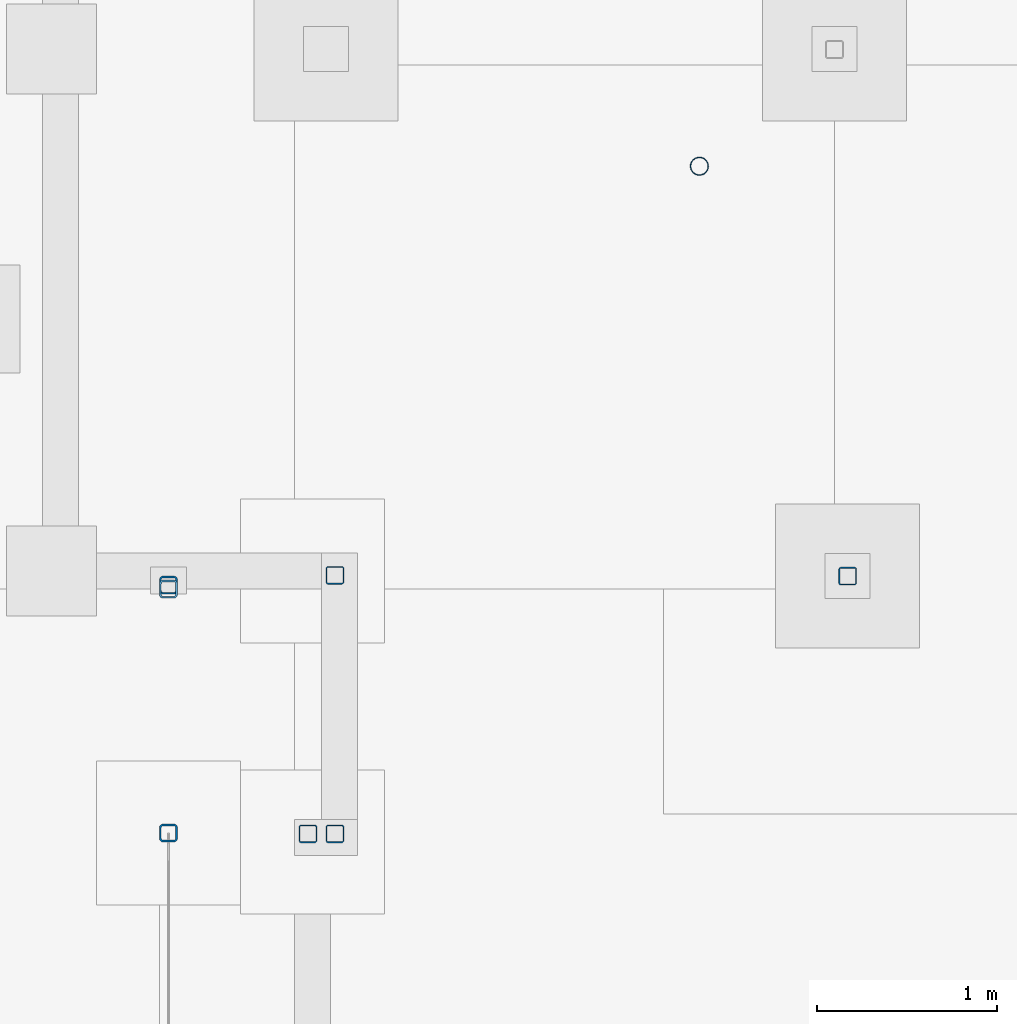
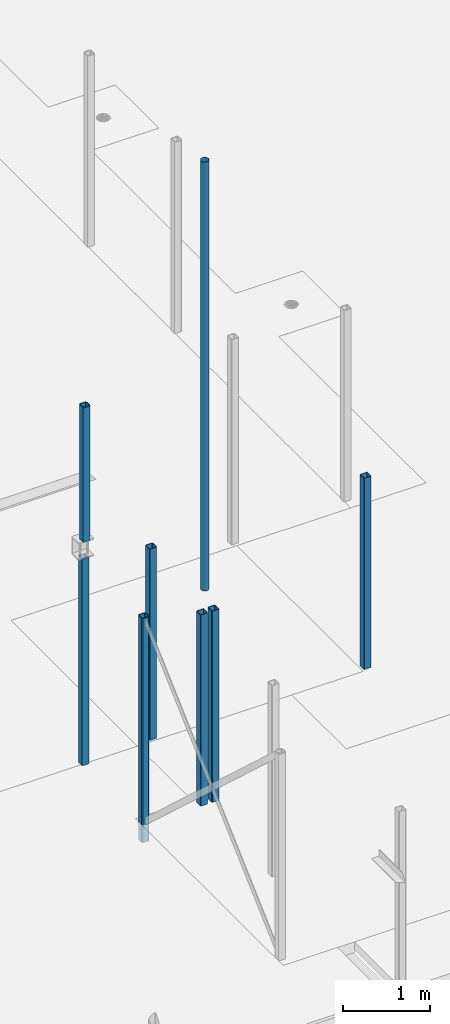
# One storey, part 2 of 18: 8 columns.
"""IFC2X3 building model written with IfcOpenShell, lengths in millimetres."""

from ifc_helpers import new_model, entity, si_unit, converted_unit, derived_unit, direction, frame, frame_2d, origin, place, context, subcontext, project, spatial, polyline, circle_curve, parameter, trimmed, segment, composite_curve, hollow_circle, outline, extrude, source, transform, mapped, material, type_object, type_shapes, element, save


model = new_model("IFC2X3")

# Units and contexts
model_context = context("Model", 3, precision=0.01, world=origin(), true_north=direction((6.12303176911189e-17, 1.0)))
body_context = subcontext(model_context, "Body", "Model", "MODEL_VIEW")
ifc_project = project(units=[si_unit("LENGTHUNIT", "METRE", prefix="MILLI"), si_unit("AREAUNIT", "SQUARE_METRE"), si_unit("VOLUMEUNIT", "CUBIC_METRE"), converted_unit("PLANEANGLEUNIT", "DEGREE", entity("IfcRatioMeasure", 0.0174532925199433), si_unit("PLANEANGLEUNIT", "RADIAN"), dimensions=[0, 0, 0, 0, 0, 0, 0]), si_unit("MASSUNIT", "GRAM", prefix="KILO"), derived_unit("MASSDENSITYUNIT", [(si_unit("MASSUNIT", "GRAM", prefix="KILO"), 1), (si_unit("LENGTHUNIT", "METRE"), -3)]), si_unit("TIMEUNIT", "SECOND"), si_unit("FREQUENCYUNIT", "HERTZ"), si_unit("THERMODYNAMICTEMPERATUREUNIT", "DEGREE_CELSIUS"), derived_unit("THERMALTRANSMITTANCEUNIT", [(si_unit("MASSUNIT", "GRAM", prefix="KILO"), 1), (si_unit("THERMODYNAMICTEMPERATUREUNIT", "KELVIN"), -1), (si_unit("TIMEUNIT", "SECOND"), -3)]), derived_unit("VOLUMETRICFLOWRATEUNIT", [(si_unit("LENGTHUNIT", "METRE"), 3), (si_unit("TIMEUNIT", "SECOND"), -1)]), si_unit("ELECTRICCURRENTUNIT", "AMPERE"), si_unit("ELECTRICVOLTAGEUNIT", "VOLT"), si_unit("POWERUNIT", "WATT"), si_unit("FORCEUNIT", "NEWTON", prefix="KILO"), si_unit("ILLUMINANCEUNIT", "LUX"), si_unit("LUMINOUSFLUXUNIT", "LUMEN"), si_unit("LUMINOUSINTENSITYUNIT", "CANDELA"), derived_unit("USERDEFINED", [(si_unit("MASSUNIT", "GRAM", prefix="KILO"), -1), (si_unit("LENGTHUNIT", "METRE"), -2), (si_unit("TIMEUNIT", "SECOND"), 3), (si_unit("LUMINOUSFLUXUNIT", "LUMEN"), 1)]), derived_unit("LINEARVELOCITYUNIT", [(si_unit("LENGTHUNIT", "METRE"), 1), (si_unit("TIMEUNIT", "SECOND"), -1)]), si_unit("PRESSUREUNIT", "PASCAL"), derived_unit("USERDEFINED", [(si_unit("LENGTHUNIT", "METRE"), -2), (si_unit("MASSUNIT", "GRAM", prefix="KILO"), 1), (si_unit("TIMEUNIT", "SECOND"), -2)])], contexts=[model_context])

# Site, building, storey
site_placement = place(None, frame((0.0, 0.0, 101000.0)))
site = spatial("IfcSite", under=ifc_project, at=site_placement, Name="Default", CompositionType="ELEMENT")
building_placement = place(site_placement, origin())
building = spatial("IfcBuilding", under=site, at=building_placement, CompositionType="ELEMENT")
storey_placement = place(building_placement, origin())
storey = spatial("IfcBuildingStorey", under=building, at=storey_placement, Name="01", CompositionType="ELEMENT", Elevation=8.9295595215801e-10)

# Columns
ifc_material_1 = material(Name="S355")
column_type_1 = type_object("IfcColumnType", Name="HUP 100x100x6.3", PredefinedType="COLUMN", material=ifc_material_1)
shared_shape_1 = source(origin(), body_context, "Body", "SweptSolid", [
    extrude(outline(composite_curve([segment(polyline([(-37.4000000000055, -50.0), (37.4000000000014, -50.0)]), True, "CONTINUOUS"), segment(trimmed(circle_curve(frame_2d((37.4000000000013, -37.3999999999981), x_axis=(-1.0, 0.0)), 12.6000000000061), [parameter(90.0000000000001)], [parameter(180.0)], True, "PARAMETER"), True, "CONTINUOUS"), segment(polyline([(50.0, -37.3999999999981), (50.0, 37.4000000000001)]), True, "CONTINUOUS"), segment(trimmed(circle_curve(frame_2d((37.4000000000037, 37.4000000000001), x_axis=(-1.0, 0.0)), 12.6000000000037), [parameter(180.0)], [parameter(270.0)], True, "PARAMETER"), True, "CONTINUOUS"), segment(polyline([(37.4000000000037, 50.0), (-37.4000000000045, 50.0)]), True, "CONTINUOUS"), segment(trimmed(circle_curve(frame_2d((-37.4000000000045, 37.4000000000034), x_axis=(-1.0, 0.0)), 12.6000000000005), [parameter(270.0)], [parameter(360.0)], True, "PARAMETER"), True, "CONTINUOUS"), segment(polyline([(-50.0, 37.4000000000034), (-50.0, -37.4000000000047)]), True, "CONTINUOUS"), segment(trimmed(circle_curve(frame_2d((-37.4000000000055, -37.4000000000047), x_axis=(-1.0, 0.0)), 12.5999999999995), [parameter(360.0)], [parameter(89.9999999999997)], True, "PARAMETER"), True, "CONTINUOUS")], self_intersect=False), holes=[composite_curve([segment(trimmed(circle_curve(frame_2d((-37.4000000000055, -37.4000000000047), x_axis=(-1.0, 0.0)), 6.2999999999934), [parameter(0.0)], [parameter(90.0)], True, "PARAMETER"), False, "CONTINUOUS"), segment(polyline([(-43.6999999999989, -37.4000000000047), (-43.6999999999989, 37.4000000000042)]), True, "CONTINUOUS"), segment(trimmed(circle_curve(frame_2d((-37.4000000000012, 37.4000000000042), x_axis=(-1.0, 0.0)), 6.29999999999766), [parameter(270.0)], [parameter(360.0)], True, "PARAMETER"), False, "CONTINUOUS"), segment(polyline([(-37.4000000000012, 43.7000000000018), (37.3999999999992, 43.7000000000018)]), True, "CONTINUOUS"), segment(trimmed(circle_curve(frame_2d((37.3999999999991, 37.3999999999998), x_axis=(-1.0, 0.0)), 6.30000000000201), [parameter(180.0)], [parameter(270.0)], True, "PARAMETER"), False, "CONTINUOUS"), segment(polyline([(43.7000000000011, 37.3999999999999), (43.7000000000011, -37.3999999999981)]), True, "CONTINUOUS"), segment(trimmed(circle_curve(frame_2d((37.4000000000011, -37.3999999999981), x_axis=(-1.0, 0.0)), 6.30000000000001), [parameter(90.0000000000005)], [parameter(180.0)], True, "PARAMETER"), False, "CONTINUOUS"), segment(polyline([(37.4000000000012, -43.6999999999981), (-37.4000000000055, -43.6999999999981)]), True, "CONTINUOUS")], self_intersect=False)]), frame((0.0, 0.0, 0.0), z_axis=(0.0, 0.0, 1.0), x_axis=(-1.0, 0.0, 0.0)), (0.0, 0.0, 1.0), 2684.99999999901),
])
type_shapes(column_type_1, [shared_shape_1])
for number, where, name in (
    (1, (11261.2644969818, 28058.4336358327, 0.0), "Søyle HUP:HUP 100x100x6.3"),
    (2, (11411.2644969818, 28058.4336358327, 0.0), "Søyle HUP:HUP 100x100x6.3"),
    (3, (11411.2644969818, 29494.9249129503, 0.0), "Søyle HUP:HUP 100x100x6.3"),
    (4, (14260.1002454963, 29490.299422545, 0.0), "Søyle HUP:HUP 100x100x6.3"),
):
    element("IfcColumn", number, at=place(storey_placement, frame(where)), inside=storey, type_object=column_type_1, material=ifc_material_1, Name=name, ObjectType="HUP 100x100x6.3", context=body_context, shape_type="MappedRepresentation", body=[
        mapped(shared_shape_1, transform((0.0, 0.0, 0.0), scale=1.0)),
    ])
column_type_2 = type_object("IfcColumnType", Name="HUP 100x100x10", PredefinedType="COLUMN", material=ifc_material_1)
shared_shape_2 = source(origin(), body_context, "Body", "SweptSolid", [
    extrude(outline(composite_curve([segment(polyline([(-30.0, -50.0), (30.0, -50.0)]), True, "CONTINUOUS"), segment(trimmed(circle_curve(frame_2d((30.0, -30.0), x_axis=(-1.0, 0.0)), 20.0000000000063), [parameter(90.0000000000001)], [parameter(180.0)], True, "PARAMETER"), True, "CONTINUOUS"), segment(polyline([(50.0, -30.0), (50.0, 30.0)]), True, "CONTINUOUS"), segment(trimmed(circle_curve(frame_2d((30.0, 30.0), x_axis=(-1.0, 0.0)), 20.0000000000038), [parameter(180.0)], [parameter(270.0)], True, "PARAMETER"), True, "CONTINUOUS"), segment(polyline([(30.0, 50.0), (-30.0, 50.0)]), True, "CONTINUOUS"), segment(trimmed(circle_curve(frame_2d((-30.0, 30.0), x_axis=(-1.0, 0.0)), 20.0000000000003), [parameter(270.0)], [parameter(360.0)], True, "PARAMETER"), True, "CONTINUOUS"), segment(polyline([(-50.0, 30.0), (-50.0, -30.0)]), True, "CONTINUOUS"), segment(trimmed(circle_curve(frame_2d((-30.0, -30.0), x_axis=(-1.0, 0.0)), 19.9999999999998), [parameter(360.0)], [parameter(89.9999999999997)], True, "PARAMETER"), True, "CONTINUOUS")], self_intersect=False), holes=[composite_curve([segment(trimmed(circle_curve(frame_2d((-30.0, -30.0), x_axis=(-1.0, 0.0)), 9.99999999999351), [parameter(0.0)], [parameter(90.0)], True, "PARAMETER"), False, "CONTINUOUS"), segment(polyline([(-40.0, -30.0), (-40.0, 30.0)]), True, "CONTINUOUS"), segment(trimmed(circle_curve(frame_2d((-30.0, 30.0), x_axis=(-1.0, 0.0)), 9.99999999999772), [parameter(270.0)], [parameter(0.0)], True, "PARAMETER"), False, "CONTINUOUS"), segment(polyline([(-30.0, 40.0), (30.0, 40.0)]), True, "CONTINUOUS"), segment(trimmed(circle_curve(frame_2d((30.0, 30.0), x_axis=(-1.0, 0.0)), 10.000000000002), [parameter(180.0)], [parameter(270.0)], True, "PARAMETER"), False, "CONTINUOUS"), segment(polyline([(40.0, 30.0), (40.0, -30.0)]), True, "CONTINUOUS"), segment(trimmed(circle_curve(frame_2d((30.0, -30.0), x_axis=(-1.0, 0.0)), 10.0), [parameter(90.0000000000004)], [parameter(180.0)], True, "PARAMETER"), False, "CONTINUOUS"), segment(polyline([(30.0, -40.0), (-30.0, -40.0)]), True, "CONTINUOUS")], self_intersect=False)]), frame((10486.2644969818, 28062.9507529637, -250.0), z_axis=(0.0, 0.0, 1.0), x_axis=(-1.0, 0.0, 0.0)), (0.0, 0.0, 1.0), 3149.99999999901),
])
type_shapes(column_type_2, [shared_shape_2])
column_1_placement = place(storey_placement, origin())
element("IfcColumn", 5, at=column_1_placement, inside=storey, type_object=column_type_2, material=ifc_material_1, Name="Søyle HUP:HUP 100x100x10", ObjectType="HUP 100x100x10", context=body_context, shape_type="MappedRepresentation", body=[
    mapped(shared_shape_2, transform((0.0, 0.0, 0.0), scale=1.0)),
])
column_type_3 = type_object("IfcColumnType", Name="HUP 100x100x10", PredefinedType="COLUMN", material=ifc_material_1)
shared_shape_3 = source(origin(), body_context, "Body", "SweptSolid", [
    extrude(outline(composite_curve([segment(polyline([(-30.0, -50.0), (30.0, -50.0)]), True, "CONTINUOUS"), segment(trimmed(circle_curve(frame_2d((30.0, -30.0), x_axis=(-1.0, 0.0)), 20.0000000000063), [parameter(90.0000000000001)], [parameter(180.0)], True, "PARAMETER"), True, "CONTINUOUS"), segment(polyline([(50.0, -30.0), (50.0, 30.0)]), True, "CONTINUOUS"), segment(trimmed(circle_curve(frame_2d((30.0, 30.0), x_axis=(-1.0, 0.0)), 20.0000000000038), [parameter(180.0)], [parameter(270.0)], True, "PARAMETER"), True, "CONTINUOUS"), segment(polyline([(30.0, 50.0), (-30.0, 50.0)]), True, "CONTINUOUS"), segment(trimmed(circle_curve(frame_2d((-30.0, 30.0), x_axis=(-1.0, 0.0)), 20.0000000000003), [parameter(270.0)], [parameter(360.0)], True, "PARAMETER"), True, "CONTINUOUS"), segment(polyline([(-50.0, 30.0), (-50.0, -30.0)]), True, "CONTINUOUS"), segment(trimmed(circle_curve(frame_2d((-30.0, -30.0), x_axis=(-1.0, 0.0)), 19.9999999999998), [parameter(360.0)], [parameter(89.9999999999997)], True, "PARAMETER"), True, "CONTINUOUS")], self_intersect=False), holes=[composite_curve([segment(trimmed(circle_curve(frame_2d((-30.0, -30.0), x_axis=(-1.0, 0.0)), 9.99999999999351), [parameter(0.0)], [parameter(90.0)], True, "PARAMETER"), False, "CONTINUOUS"), segment(polyline([(-40.0, -30.0), (-40.0, 30.0)]), True, "CONTINUOUS"), segment(trimmed(circle_curve(frame_2d((-30.0, 30.0), x_axis=(-1.0, 0.0)), 9.99999999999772), [parameter(270.0)], [parameter(0.0)], True, "PARAMETER"), False, "CONTINUOUS"), segment(polyline([(-30.0, 40.0), (30.0, 40.0)]), True, "CONTINUOUS"), segment(trimmed(circle_curve(frame_2d((30.0, 30.0), x_axis=(-1.0, 0.0)), 10.000000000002), [parameter(180.0)], [parameter(270.0)], True, "PARAMETER"), False, "CONTINUOUS"), segment(polyline([(40.0, 30.0), (40.0, -30.0)]), True, "CONTINUOUS"), segment(trimmed(circle_curve(frame_2d((30.0, -30.0), x_axis=(-1.0, 0.0)), 10.0), [parameter(90.0000000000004)], [parameter(180.0)], True, "PARAMETER"), False, "CONTINUOUS"), segment(polyline([(30.0, -40.0), (-30.0, -40.0)]), True, "CONTINUOUS")], self_intersect=False)]), frame((10486.2644969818, 29440.2994225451, 0.0), z_axis=(0.0, 0.0, 1.0), x_axis=(-1.0, 0.0, 0.0)), (0.0, 0.0, 1.0), 2899.99999999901),
])
type_shapes(column_type_3, [shared_shape_3])
column_2_placement = place(storey_placement, origin())
element("IfcColumn", 6, at=column_2_placement, inside=storey, type_object=column_type_3, material=ifc_material_1, Name="Søyle HUP:HUP 100x100x10", ObjectType="HUP 100x100x10", context=body_context, shape_type="MappedRepresentation", body=[
    mapped(shared_shape_3, transform((0.0, 0.0, 0.0), scale=1.0)),
])
column_type_4 = type_object("IfcColumnType", Name="HUP 100x100x10", PredefinedType="COLUMN", material=ifc_material_1)
shared_shape_4 = source(origin(), body_context, "Body", "SweptSolid", [
    extrude(outline(composite_curve([segment(polyline([(-30.0, -50.0), (30.0, -50.0)]), True, "CONTINUOUS"), segment(trimmed(circle_curve(frame_2d((30.0, -30.0), x_axis=(-1.0, 0.0)), 20.0000000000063), [parameter(90.0000000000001)], [parameter(180.0)], True, "PARAMETER"), True, "CONTINUOUS"), segment(polyline([(50.0, -30.0), (50.0, 30.0)]), True, "CONTINUOUS"), segment(trimmed(circle_curve(frame_2d((30.0, 30.0), x_axis=(-1.0, 0.0)), 20.0000000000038), [parameter(180.0)], [parameter(270.0)], True, "PARAMETER"), True, "CONTINUOUS"), segment(polyline([(30.0, 50.0), (-30.0, 50.0)]), True, "CONTINUOUS"), segment(trimmed(circle_curve(frame_2d((-30.0, 30.0), x_axis=(-1.0, 0.0)), 20.0000000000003), [parameter(270.0)], [parameter(360.0)], True, "PARAMETER"), True, "CONTINUOUS"), segment(polyline([(-50.0, 30.0), (-50.0, -30.0)]), True, "CONTINUOUS"), segment(trimmed(circle_curve(frame_2d((-30.0, -30.0), x_axis=(-1.0, 0.0)), 19.9999999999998), [parameter(360.0)], [parameter(89.9999999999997)], True, "PARAMETER"), True, "CONTINUOUS")], self_intersect=False), holes=[composite_curve([segment(trimmed(circle_curve(frame_2d((-30.0, -30.0), x_axis=(-1.0, 0.0)), 9.99999999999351), [parameter(0.0)], [parameter(90.0)], True, "PARAMETER"), False, "CONTINUOUS"), segment(polyline([(-40.0, -30.0), (-40.0, 30.0)]), True, "CONTINUOUS"), segment(trimmed(circle_curve(frame_2d((-30.0, 30.0), x_axis=(-1.0, 0.0)), 9.99999999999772), [parameter(270.0)], [parameter(0.0)], True, "PARAMETER"), False, "CONTINUOUS"), segment(polyline([(-30.0, 40.0), (30.0, 40.0)]), True, "CONTINUOUS"), segment(trimmed(circle_curve(frame_2d((30.0, 30.0), x_axis=(-1.0, 0.0)), 10.000000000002), [parameter(180.0)], [parameter(270.0)], True, "PARAMETER"), False, "CONTINUOUS"), segment(polyline([(40.0, 30.0), (40.0, -30.0)]), True, "CONTINUOUS"), segment(trimmed(circle_curve(frame_2d((30.0, -30.0), x_axis=(-1.0, 0.0)), 10.0), [parameter(90.0000000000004)], [parameter(180.0)], True, "PARAMETER"), False, "CONTINUOUS"), segment(polyline([(30.0, -40.0), (-30.0, -40.0)]), True, "CONTINUOUS")], self_intersect=False)]), frame((10486.2644969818, 29417.9507529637, 3150.0), z_axis=(0.0, 0.0, 1.0), x_axis=(-1.0, 0.0, 0.0)), (0.0, 0.0, 1.0), 1890.0),
])
type_shapes(column_type_4, [shared_shape_4])
column_3_placement = place(storey_placement, origin())
element("IfcColumn", 7, at=column_3_placement, inside=storey, type_object=column_type_4, material=ifc_material_1, Name="Søyle HUP:HUP 100x100x10", ObjectType="HUP 100x100x10", context=body_context, shape_type="MappedRepresentation", body=[
    mapped(shared_shape_4, transform((0.0, 0.0, 0.0), scale=1.0)),
])
ifc_material_2 = material(Name="Barco_Cromado")
column_type_5 = type_object("IfcColumnType", Name="BRANNMANNSTANG", PredefinedType="COLUMN", material=ifc_material_2)
shared_shape_5 = source(origin(), body_context, "Body", "SweptSolid", [
    extrude(hollow_circle(Radius=50.7999999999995, WallThickness=3.19999999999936, at=frame_2d((-1.28881280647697e-15, -8.20544153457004e-14), x_axis=(1.0, 0.0))), frame((-0.200000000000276, -0.199999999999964, 0.0)), (0.0, 0.0, 1.0), 6024.9999999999),
])
type_shapes(column_type_5, [shared_shape_5])
column_4_placement = place(storey_placement, frame((13436.3188765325, 31767.9507529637, 0.0)))
element("IfcColumn", 8, at=column_4_placement, inside=storey, type_object=column_type_5, material=ifc_material_2, Name="Søyle Sirkulær:BRANNMANNSTANG", ObjectType="BRANNMANNSTANG", context=body_context, shape_type="MappedRepresentation", body=[
    mapped(shared_shape_5, transform((0.0, 0.0, 0.0), scale=1.0)),
])

save(model, "model.ifc")
